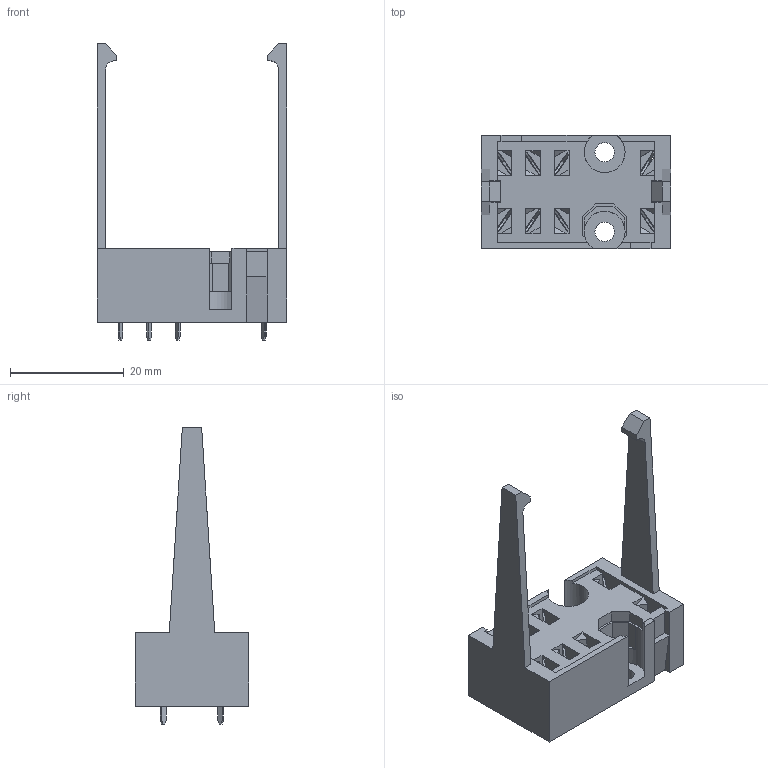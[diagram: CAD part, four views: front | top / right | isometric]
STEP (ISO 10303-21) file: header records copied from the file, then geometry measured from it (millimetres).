
FILE_DESCRIPTION((''),'2;1');
FILE_NAME('I:\TI\Bibliotheek\Inventor\Relais voeten\V18\V18 print-voet CU-relais.stp','2010-07-30T10:19:03',('oey'),(''),'Autodesk Inventor 2011','Autodesk Inventor 2011','');
FILE_SCHEMA(('AUTOMOTIVE_DESIGN { 1 0 10303 214 1 1 1 1 }'));
Length unit declared in the file: millimetre
Products named in the file (3): V18 print-voet CU-relais; 379229214 Contactblok V17-voet CU-relais; 397620102 Print-contact V17-voet
Assembly tree (9 placements, depth 2):
  V18 print-voet CU-relais
    379229214 Contactblok V17-voet CU-relais
    397620102 Print-contact V17-voet  x8
Bounding box: 33.4 x 20 x 52.15 mm (x, y, z)
Volume: 6407.3 mm3; surface area: 6608.3 mm2
Topology: 9 solids, 9 shells, 565 faces, 1562 edges, 1022 vertices
Faces by surface type: plane 485, cylinder 80
Full cylindrical faces by diameter (mm): 3.4 x2
Entity records: 9320 total; most frequent: CARTESIAN_POINT 1643, ORIENTED_EDGE 1618, DIRECTION 1459, EDGE_CURVE 809, VECTOR 767, LINE 767, VERTEX_POINT 530, AXIS2_PLACEMENT_3D 346
